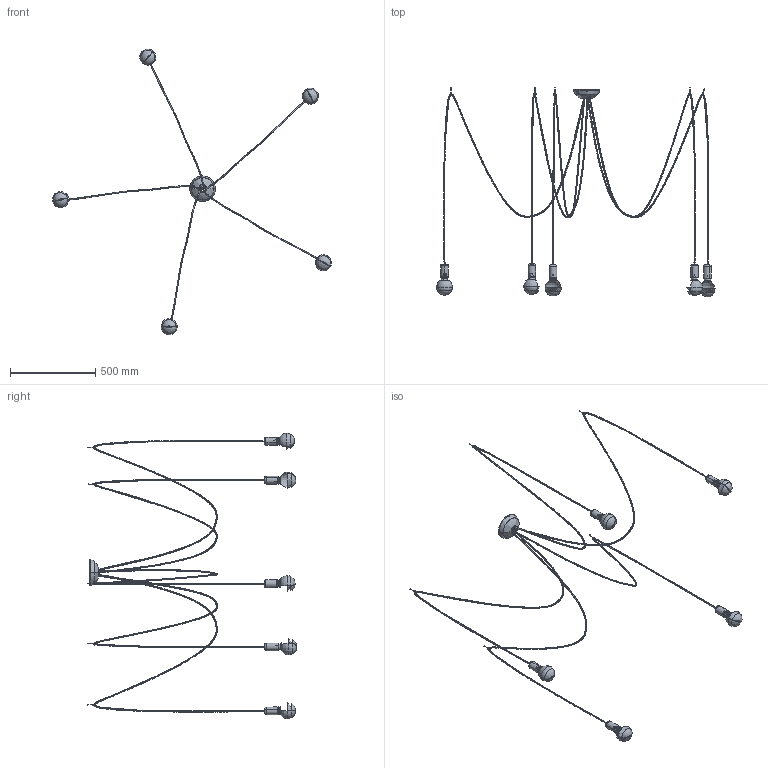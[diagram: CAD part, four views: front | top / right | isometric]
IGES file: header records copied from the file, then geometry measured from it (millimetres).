
Start section: SolidWorks IGES file using analytic representation for surfaces
Global section: file name: E:\3D lampy\Paj¹k\Spider 6790.IGS; native system: SolidWorks 2016; preprocessor: SolidWorks 2016; author: Asia; date: 160713.112052; units: millimetre
Bounding box: 1640.27 x 1232.08 x 1679.81 mm (x, y, z)
Surface area: 707753.4 mm2 (no closed solid volume)
Topology: 0 solids, 0 shells, 357 faces, 4316 edges, 4311 vertices
Faces by surface type: revolution 188, bspline 169
